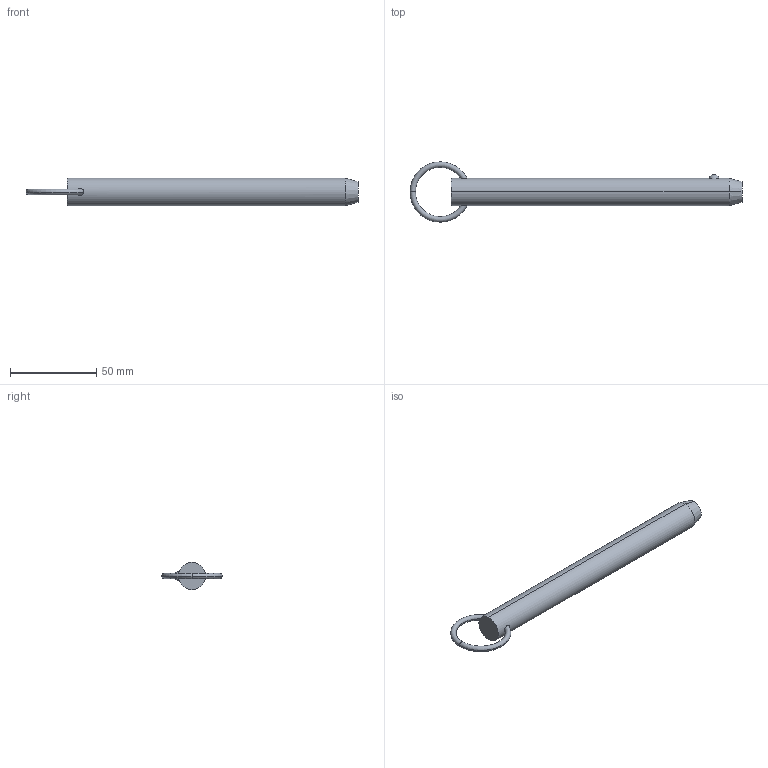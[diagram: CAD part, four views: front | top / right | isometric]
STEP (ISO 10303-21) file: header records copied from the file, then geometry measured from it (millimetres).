
FILE_DESCRIPTION (( 'STEP AP203' ), '1' );
FILE_NAME ('33010.W6255.step', '2024-11-01T10:42:34', ( '' ), ( '' ), 'SwSTEP 2.0', 'SolidWorks 2019', '' );
FILE_SCHEMA (( 'CONFIG_CONTROL_DESIGN' ));
Length unit declared in the file: millimetre
Products named in the file (3): 33010.W6255; Part1_33010.W6255; Part2_33010.W6255
Assembly tree (2 placements, depth 2):
  33010.W6255
    Part1_33010.W6255
    Part2_33010.W6255
Bounding box: 192.21 x 34.93 x 15.88 mm (x, y, z)
Volume: 33614.7 mm3; surface area: 9858.6 mm2
Topology: 2 solids, 2 shells, 16 faces, 31 edges, 18 vertices
Faces by surface type: torus 8, sphere 2, cone 2, cylinder 2, plane 2
Entity records: 889 total; most frequent: CARTESIAN_POINT 246, DIRECTION 88, ORIENTED_EDGE 62, AXIS2_PLACEMENT_3D 42, EDGE_CURVE 31, PERSON_AND_ORGANIZATION 26, CIRCLE 21, EDGE_LOOP 19
